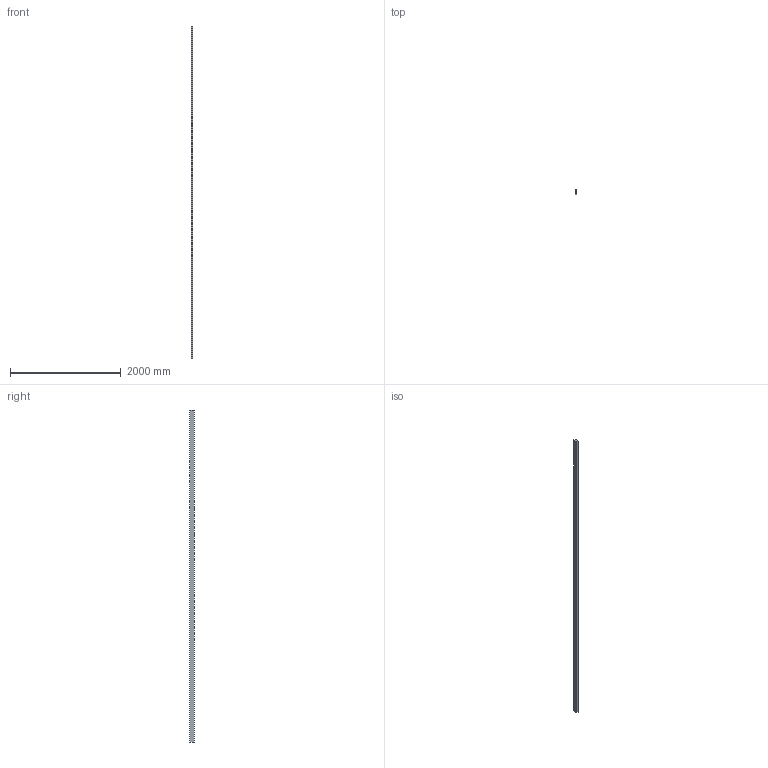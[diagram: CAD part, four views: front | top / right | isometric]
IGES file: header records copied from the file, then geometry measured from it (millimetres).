
Start section: SolidWorks IGES file using analytic representation for surfaces
Global section: file name: C:\Documents and Settings\Pc\Escritorio\Modelos 3D\Capítulo 7 (Vigas)\PRACTICAS\P-16\Practica-1.IGS; native system: SolidWorks 2010; preprocessor: SolidWorks 2010; author: Pc; date: 100623.114528; units: millimetre
Bounding box: 30 x 80 x 6000 mm (x, y, z)
Surface area: 1324800 mm2 (no closed solid volume)
Topology: 0 solids, 0 shells, 7 faces, 30 edges, 30 vertices
Faces by surface type: bspline 7
